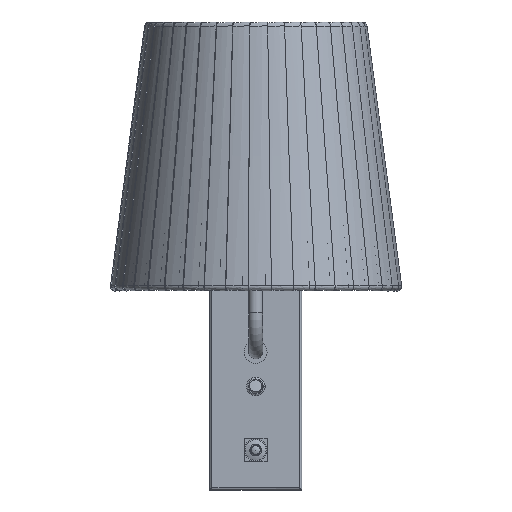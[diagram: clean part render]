
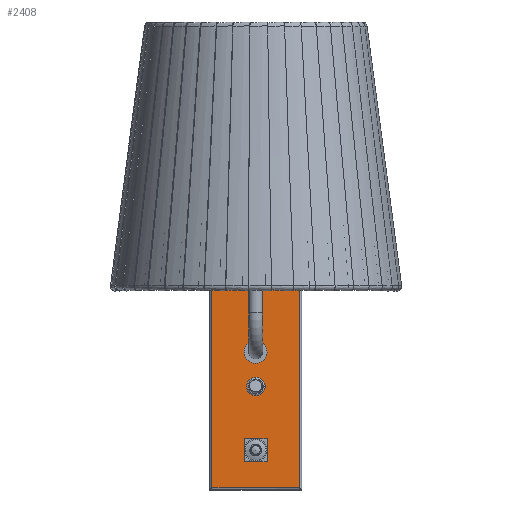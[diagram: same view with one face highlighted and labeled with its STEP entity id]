
A CAD part, top view. The second image highlights one B-rep face of the part: STEP entity #2408.
In plain terms, the highlighted planar face has unit normal (0, 0, 1).
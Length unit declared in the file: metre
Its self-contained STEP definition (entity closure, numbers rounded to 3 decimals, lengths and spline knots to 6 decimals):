
#2408 = ADVANCED_FACE( '', ( #3050, #3051, #3052, #3053 ), #3054, .T. );
#3050 = FACE_BOUND( '', #4557, .T. );
#3051 = FACE_BOUND( '', #4558, .T. );
#3052 = FACE_BOUND( '', #4559, .T. );
#3053 = FACE_OUTER_BOUND( '', #4560, .T. );
#3054 = PLANE( '', #4561 );
#4557 = EDGE_LOOP( '', ( #17125 ) );
#4558 = EDGE_LOOP( '', ( #17126, #17127 ) );
#4559 = EDGE_LOOP( '', ( #17128 ) );
#4560 = EDGE_LOOP( '', ( #17129, #17130, #17131, #17132 ) );
#4561 = AXIS2_PLACEMENT_3D( '', #17133, #17134, #17135 );
#17125 = ORIENTED_EDGE( '', *, *, #20055, .T. );
#17126 = ORIENTED_EDGE( '', *, *, #20100, .T. );
#17127 = ORIENTED_EDGE( '', *, *, #20096, .T. );
#17128 = ORIENTED_EDGE( '', *, *, #20114, .T. );
#17129 = ORIENTED_EDGE( '', *, *, #20118, .F. );
#17130 = ORIENTED_EDGE( '', *, *, #20116, .F. );
#17131 = ORIENTED_EDGE( '', *, *, #20084, .F. );
#17132 = ORIENTED_EDGE( '', *, *, #20110, .F. );
#17133 = CARTESIAN_POINT( '', ( -0.01, 0.12, 0.01945 ) );
#17134 = DIRECTION( '', ( 0., 0., 1. ) );
#17135 = DIRECTION( '', ( -1., 0., 0. ) );
#20055 = EDGE_CURVE( '', #21032, #21032, #21033, .T. );
#20084 = EDGE_CURVE( '', #21085, #21086, #21087, .T. );
#20096 = EDGE_CURVE( '', #21105, #21106, #21107, .T. );
#20100 = EDGE_CURVE( '', #21106, #21105, #21113, .T. );
#20110 = EDGE_CURVE( '', #21126, #21085, #21127, .T. );
#20114 = EDGE_CURVE( '', #21132, #21132, #21133, .T. );
#20116 = EDGE_CURVE( '', #21086, #21135, #21136, .T. );
#20118 = EDGE_CURVE( '', #21135, #21126, #21138, .T. );
#21032 = VERTEX_POINT( '', #22732 );
#21033 = CIRCLE( '', #22733, 0.00525 );
#21085 = VERTEX_POINT( '', #22808 );
#21086 = VERTEX_POINT( '', #22809 );
#21087 = LINE( '', #22810, #22811 );
#21105 = VERTEX_POINT( '', #22835 );
#21106 = VERTEX_POINT( '', #22836 );
#21107 = CIRCLE( '', #22837, 0.0075 );
#21113 = CIRCLE( '', #22845, 0.001 );
#21126 = VERTEX_POINT( '', #22864 );
#21127 = LINE( '', #22865, #22866 );
#21132 = VERTEX_POINT( '', #22872 );
#21133 = CIRCLE( '', #22873, 0.0055 );
#21135 = VERTEX_POINT( '', #22876 );
#21136 = LINE( '', #22877, #22878 );
#21138 = LINE( '', #22880, #22881 );
#22732 = CARTESIAN_POINT( '', ( -0.00525, 0.0345, 0.01945 ) );
#22733 = AXIS2_PLACEMENT_3D( '', #29683, #29684, #29685 );
#22808 = CARTESIAN_POINT( '', ( -0.038, 0.002, 0.01945 ) );
#22809 = CARTESIAN_POINT( '', ( -0.038, 0.218, 0.01945 ) );
#22810 = CARTESIAN_POINT( '', ( -0.038, 0.145, 0.01945 ) );
#22811 = VECTOR( '', #29724, 1. );
#22835 = CARTESIAN_POINT( '', ( 0.007433, 0.089002, 0.01945 ) );
#22836 = CARTESIAN_POINT( '', ( 0.007433, 0.090998, 0.01945 ) );
#22837 = AXIS2_PLACEMENT_3D( '', #29746, #29747, #29748 );
#22845 = AXIS2_PLACEMENT_3D( '', #29754, #29755, #29756 );
#22864 = CARTESIAN_POINT( '', ( 0.038, 0.002, 0.01945 ) );
#22865 = CARTESIAN_POINT( '', ( -0.025, 0.002, 0.01945 ) );
#22866 = VECTOR( '', #29772, 1. );
#22872 = CARTESIAN_POINT( '', ( 0.0055, 0.12, 0.01945 ) );
#22873 = AXIS2_PLACEMENT_3D( '', #29780, #29781, #29782 );
#22876 = CARTESIAN_POINT( '', ( 0.038, 0.218, 0.01945 ) );
#22877 = CARTESIAN_POINT( '', ( 0.015, 0.218, 0.01945 ) );
#22878 = VECTOR( '', #29784, 1. );
#22880 = CARTESIAN_POINT( '', ( 0.038, 0.095, 0.01945 ) );
#22881 = VECTOR( '', #29788, 1. );
#29683 = CARTESIAN_POINT( '', ( 0., 0.0345, 0.01945 ) );
#29684 = DIRECTION( '', ( 0., 0., -1. ) );
#29685 = DIRECTION( '', ( 1., 0., 0. ) );
#29724 = DIRECTION( '', ( 0., 1., 0. ) );
#29746 = CARTESIAN_POINT( '', ( 0., 0.09, 0.01945 ) );
#29747 = DIRECTION( '', ( 0., 0., -1. ) );
#29748 = DIRECTION( '', ( -1., 0., 0. ) );
#29754 = CARTESIAN_POINT( '', ( 0.0075, 0.09, 0.01945 ) );
#29755 = DIRECTION( '', ( 0., 0., -1. ) );
#29756 = DIRECTION( '', ( 1., 0., 0. ) );
#29772 = DIRECTION( '', ( -1., 0., 0. ) );
#29780 = CARTESIAN_POINT( '', ( 0., 0.12, 0.01945 ) );
#29781 = DIRECTION( '', ( 0., 0., -1. ) );
#29782 = DIRECTION( '', ( -1., 0., 0. ) );
#29784 = DIRECTION( '', ( 1., 0., 0. ) );
#29788 = DIRECTION( '', ( 0., -1., 0. ) );
